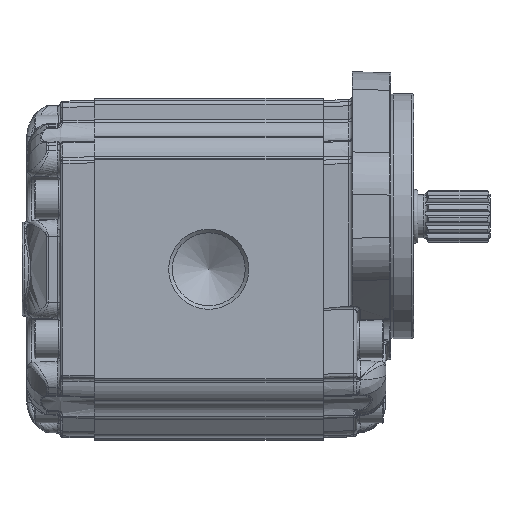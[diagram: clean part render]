
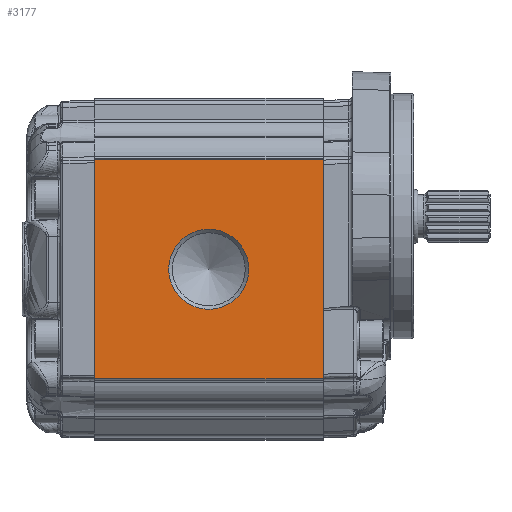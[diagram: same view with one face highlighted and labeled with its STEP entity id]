
A CAD part, left-side view. The second image highlights one B-rep face of the part: STEP entity #3177.
In plain terms, the highlighted planar face has unit normal (-1, 0, 0).
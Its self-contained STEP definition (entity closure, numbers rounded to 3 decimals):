
#3177 = ADVANCED_FACE( '', ( #9340, #9341 ), #9342, .T. );
#9340 = FACE_BOUND( '', #19196, .T. );
#9341 = FACE_OUTER_BOUND( '', #19197, .T. );
#9342 = PLANE( '', #19198 );
#19196 = EDGE_LOOP( '', ( #80050 ) );
#19197 = EDGE_LOOP( '', ( #80051, #80052, #80053, #80054 ) );
#19198 = AXIS2_PLACEMENT_3D( '', #80055, #80056, #80057 );
#80050 = ORIENTED_EDGE( '', *, *, #104663, .T. );
#80051 = ORIENTED_EDGE( '', *, *, #104664, .F. );
#80052 = ORIENTED_EDGE( '', *, *, #104665, .T. );
#80053 = ORIENTED_EDGE( '', *, *, #104666, .F. );
#80054 = ORIENTED_EDGE( '', *, *, #104667, .T. );
#80055 = CARTESIAN_POINT( '', ( -57.5, -136.868, -84.819 ) );
#80056 = DIRECTION( '', ( -1., 0., 0. ) );
#80057 = DIRECTION( '', ( 0., 0., -1. ) );
#104663 = EDGE_CURVE( '', #115531, #115531, #115532, .F. );
#104664 = EDGE_CURVE( '', #115533, #115534, #115535, .T. );
#104665 = EDGE_CURVE( '', #115533, #115536, #115537, .F. );
#104666 = EDGE_CURVE( '', #115538, #115536, #115539, .T. );
#104667 = EDGE_CURVE( '', #115538, #115534, #115540, .F. );
#115531 = VERTEX_POINT( '', #131714 );
#115532 = CIRCLE( '', #131715, 16.646 );
#115533 = VERTEX_POINT( '', #131716 );
#115534 = VERTEX_POINT( '', #131717 );
#115535 = LINE( '', #131718, #131719 );
#115536 = VERTEX_POINT( '', #131720 );
#115537 = LINE( '', #131721, #131722 );
#115538 = VERTEX_POINT( '', #131723 );
#115539 = LINE( '', #131724, #131725 );
#115540 = LINE( '', #131726, #131727 );
#131714 = CARTESIAN_POINT( '', ( -57.5, 47.5, -16.646 ) );
#131715 = AXIS2_PLACEMENT_3D( '', #176735, #176736, #176737 );
#131716 = CARTESIAN_POINT( '', ( -57.5, 95., -45.5 ) );
#131717 = CARTESIAN_POINT( '', ( -57.5, 95., 45.5 ) );
#131718 = CARTESIAN_POINT( '', ( -57.5, 95., -84.819 ) );
#131719 = VECTOR( '', #176738, 1000. );
#131720 = CARTESIAN_POINT( '', ( -57.5, 0., -45.5 ) );
#131721 = CARTESIAN_POINT( '', ( -57.5, -136.868, -45.5 ) );
#131722 = VECTOR( '', #176739, 1000. );
#131723 = CARTESIAN_POINT( '', ( -57.5, 0., 45.5 ) );
#131724 = CARTESIAN_POINT( '', ( -57.5, 0., -44.978 ) );
#131725 = VECTOR( '', #176740, 1000. );
#131726 = CARTESIAN_POINT( '', ( -57.5, -136.868, 45.5 ) );
#131727 = VECTOR( '', #176741, 1000. );
#176735 = CARTESIAN_POINT( '', ( -57.5, 47.5, 0. ) );
#176736 = DIRECTION( '', ( -1., 0., 0. ) );
#176737 = DIRECTION( '', ( 0., 0., -1. ) );
#176738 = DIRECTION( '', ( 0., 0., 1. ) );
#176739 = DIRECTION( '', ( 0., 1., 0. ) );
#176740 = DIRECTION( '', ( 0., 0., -1. ) );
#176741 = DIRECTION( '', ( 0., -1., 0. ) );
